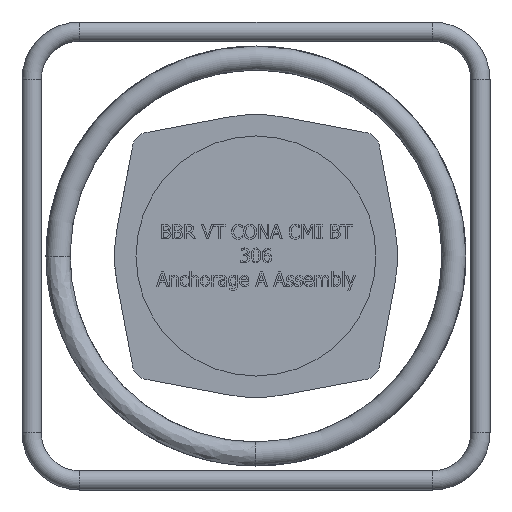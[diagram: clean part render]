
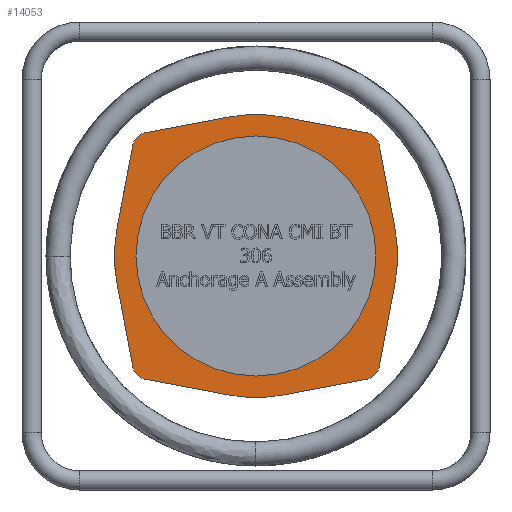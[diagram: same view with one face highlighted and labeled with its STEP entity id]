
A CAD part, left-side view. The second image highlights one B-rep face of the part: STEP entity #14053.
In plain terms, the highlighted planar face has unit normal (-1, 0, 0).
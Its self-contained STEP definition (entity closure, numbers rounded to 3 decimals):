
#83=FACE_BOUND('',#5054,.T.);
#1339=PLANE('',#14590);
#2422=LINE('',#27522,#3540);
#2423=LINE('',#27526,#3541);
#2424=LINE('',#27530,#3542);
#2425=LINE('',#27534,#3543);
#2426=LINE('',#27538,#3544);
#2427=LINE('',#27541,#3545);
#2428=LINE('',#27543,#3546);
#2429=LINE('',#27546,#3547);
#3540=VECTOR('',#16703,10.);
#3541=VECTOR('',#16706,10.);
#3542=VECTOR('',#16709,10.);
#3543=VECTOR('',#16712,10.);
#3544=VECTOR('',#16715,10.);
#3545=VECTOR('',#16718,10.);
#3546=VECTOR('',#16719,10.);
#3547=VECTOR('',#16722,10.);
#4264=FACE_OUTER_BOUND('',#5053,.T.);
#5053=EDGE_LOOP('',(#12075,#12076,#12077,#12078,#12079,#12080,#12081,#12082,
#12083,#12084,#12085,#12086,#12087,#12088,#12089,#12090));
#5054=EDGE_LOOP('',(#12091));
#5216=CIRCLE('',#14563,50.);
#5220=CIRCLE('',#14571,59.);
#5236=CIRCLE('',#14591,59.);
#5237=CIRCLE('',#14592,7.);
#5238=CIRCLE('',#14593,59.);
#5239=CIRCLE('',#14594,7.);
#5240=CIRCLE('',#14595,59.);
#5241=CIRCLE('',#14596,7.);
#5242=CIRCLE('',#14597,7.);
#6501=VERTEX_POINT('',#27222);
#6514=VERTEX_POINT('',#27288);
#6515=VERTEX_POINT('',#27290);
#6545=VERTEX_POINT('',#27518);
#6546=VERTEX_POINT('',#27519);
#6547=VERTEX_POINT('',#27521);
#6548=VERTEX_POINT('',#27523);
#6549=VERTEX_POINT('',#27525);
#6550=VERTEX_POINT('',#27527);
#6551=VERTEX_POINT('',#27529);
#6552=VERTEX_POINT('',#27531);
#6553=VERTEX_POINT('',#27533);
#6554=VERTEX_POINT('',#27535);
#6555=VERTEX_POINT('',#27537);
#6556=VERTEX_POINT('',#27539);
#6557=VERTEX_POINT('',#27542);
#6558=VERTEX_POINT('',#27544);
#8368=EDGE_CURVE('',#6501,#6501,#5216,.T.);
#8381=EDGE_CURVE('',#6515,#6514,#5220,.T.);
#8417=EDGE_CURVE('',#6545,#6546,#5236,.T.);
#8418=EDGE_CURVE('',#6547,#6546,#2422,.T.);
#8419=EDGE_CURVE('',#6547,#6548,#5237,.T.);
#8420=EDGE_CURVE('',#6548,#6549,#2423,.T.);
#8421=EDGE_CURVE('',#6549,#6550,#5238,.T.);
#8422=EDGE_CURVE('',#6551,#6550,#2424,.T.);
#8423=EDGE_CURVE('',#6551,#6552,#5239,.T.);
#8424=EDGE_CURVE('',#6552,#6553,#2425,.T.);
#8425=EDGE_CURVE('',#6553,#6554,#5240,.T.);
#8426=EDGE_CURVE('',#6555,#6554,#2426,.T.);
#8427=EDGE_CURVE('',#6555,#6556,#5241,.T.);
#8428=EDGE_CURVE('',#6556,#6515,#2427,.T.);
#8429=EDGE_CURVE('',#6557,#6514,#2428,.T.);
#8430=EDGE_CURVE('',#6557,#6558,#5242,.T.);
#8431=EDGE_CURVE('',#6558,#6545,#2429,.T.);
#12075=ORIENTED_EDGE('',*,*,#8417,.T.);
#12076=ORIENTED_EDGE('',*,*,#8418,.F.);
#12077=ORIENTED_EDGE('',*,*,#8419,.T.);
#12078=ORIENTED_EDGE('',*,*,#8420,.T.);
#12079=ORIENTED_EDGE('',*,*,#8421,.T.);
#12080=ORIENTED_EDGE('',*,*,#8422,.F.);
#12081=ORIENTED_EDGE('',*,*,#8423,.T.);
#12082=ORIENTED_EDGE('',*,*,#8424,.T.);
#12083=ORIENTED_EDGE('',*,*,#8425,.T.);
#12084=ORIENTED_EDGE('',*,*,#8426,.F.);
#12085=ORIENTED_EDGE('',*,*,#8427,.T.);
#12086=ORIENTED_EDGE('',*,*,#8428,.T.);
#12087=ORIENTED_EDGE('',*,*,#8381,.T.);
#12088=ORIENTED_EDGE('',*,*,#8429,.F.);
#12089=ORIENTED_EDGE('',*,*,#8430,.T.);
#12090=ORIENTED_EDGE('',*,*,#8431,.T.);
#12091=ORIENTED_EDGE('',*,*,#8368,.T.);
#14053=ADVANCED_FACE('',(#4264,#83),#1339,.T.);
#14563=AXIS2_PLACEMENT_3D('',#27224,#16628,#16629);
#14571=AXIS2_PLACEMENT_3D('',#27291,#16647,#16648);
#14590=AXIS2_PLACEMENT_3D('',#27517,#16699,#16700);
#14591=AXIS2_PLACEMENT_3D('',#27520,#16701,#16702);
#14592=AXIS2_PLACEMENT_3D('',#27524,#16704,#16705);
#14593=AXIS2_PLACEMENT_3D('',#27528,#16707,#16708);
#14594=AXIS2_PLACEMENT_3D('',#27532,#16710,#16711);
#14595=AXIS2_PLACEMENT_3D('',#27536,#16713,#16714);
#14596=AXIS2_PLACEMENT_3D('',#27540,#16716,#16717);
#14597=AXIS2_PLACEMENT_3D('',#27545,#16720,#16721);
#16628=DIRECTION('center_axis',(1.,0.,0.));
#16629=DIRECTION('ref_axis',(0.,-1.,0.));
#16647=DIRECTION('center_axis',(-1.,0.,0.));
#16648=DIRECTION('ref_axis',(0.,0.,
-1.));
#16699=DIRECTION('center_axis',(-1.,0.,0.));
#16700=DIRECTION('ref_axis',(0.,-1.,0.));
#16701=DIRECTION('center_axis',(-1.,0.,0.));
#16702=DIRECTION('ref_axis',(0.,0.,
-1.));
#16703=DIRECTION('',(0.,0.983,-0.184));
#16704=DIRECTION('center_axis',(-1.,0.,0.));
#16705=DIRECTION('ref_axis',(0.,0.588,-0.809));
#16706=DIRECTION('',(0.,-0.184,0.983));
#16707=DIRECTION('center_axis',(-1.,0.,0.));
#16708=DIRECTION('ref_axis',(0.,0.,
-1.));
#16709=DIRECTION('',(0.,-0.184,-0.983));
#16710=DIRECTION('center_axis',(-1.,0.,0.));
#16711=DIRECTION('ref_axis',(0.,-0.809,-0.588));
#16712=DIRECTION('',(0.,0.983,0.184));
#16713=DIRECTION('center_axis',(-1.,0.,0.));
#16714=DIRECTION('ref_axis',(0.,0.,
-1.));
#16715=DIRECTION('',(0.,-0.983,0.184));
#16716=DIRECTION('center_axis',(-1.,0.,0.));
#16717=DIRECTION('ref_axis',(0.,-0.588,0.809));
#16718=DIRECTION('',(0.,0.184,-0.983));
#16719=DIRECTION('',(0.,0.184,0.983));
#16720=DIRECTION('center_axis',(-1.,0.,0.));
#16721=DIRECTION('ref_axis',(0.,0.809,0.588));
#16722=DIRECTION('',(0.,-0.983,-0.184));
#27222=CARTESIAN_POINT('',(-70.115,50.,0.));
#27224=CARTESIAN_POINT('Origin',(-70.115,0.,
0.));
#27288=CARTESIAN_POINT('',(-70.115,57.988,-10.882));
#27290=CARTESIAN_POINT('',(-70.115,57.988,10.882));
#27291=CARTESIAN_POINT('Origin',(-70.115,0.,
0.));
#27517=CARTESIAN_POINT('Origin',(-70.115,0.,
-47.));
#27518=CARTESIAN_POINT('',(-70.115,10.882,-57.988));
#27519=CARTESIAN_POINT('',(-70.115,-10.882,-57.988));
#27520=CARTESIAN_POINT('Origin',(-70.115,0.,
0.));
#27521=CARTESIAN_POINT('',(-70.115,-45.839,-51.428));
#27522=CARTESIAN_POINT('',(-70.115,-45.839,-51.428));
#27523=CARTESIAN_POINT('',(-70.115,-51.428,-45.839));
#27524=CARTESIAN_POINT('Origin',(-70.115,-44.548,-44.548));
#27525=CARTESIAN_POINT('',(-70.115,-57.988,-10.882));
#27526=CARTESIAN_POINT('',(-70.115,-51.428,-45.839));
#27527=CARTESIAN_POINT('',(-70.115,-57.988,10.882));
#27528=CARTESIAN_POINT('Origin',(-70.115,0.,
0.));
#27529=CARTESIAN_POINT('',(-70.115,-51.428,45.839));
#27530=CARTESIAN_POINT('',(-70.115,-51.428,45.839));
#27531=CARTESIAN_POINT('',(-70.115,-45.839,51.428));
#27532=CARTESIAN_POINT('Origin',(-70.115,-44.548,44.548));
#27533=CARTESIAN_POINT('',(-70.115,-10.882,57.988));
#27534=CARTESIAN_POINT('',(-70.115,-45.839,51.428));
#27535=CARTESIAN_POINT('',(-70.115,10.882,57.988));
#27536=CARTESIAN_POINT('Origin',(-70.115,0.,
0.));
#27537=CARTESIAN_POINT('',(-70.115,45.839,51.428));
#27538=CARTESIAN_POINT('',(-70.115,45.839,51.428));
#27539=CARTESIAN_POINT('',(-70.115,51.428,45.839));
#27540=CARTESIAN_POINT('Origin',(-70.115,44.548,44.548));
#27541=CARTESIAN_POINT('',(-70.115,51.428,45.839));
#27542=CARTESIAN_POINT('',(-70.115,51.428,-45.839));
#27543=CARTESIAN_POINT('',(-70.115,51.428,-45.839));
#27544=CARTESIAN_POINT('',(-70.115,45.839,-51.428));
#27545=CARTESIAN_POINT('Origin',(-70.115,44.548,-44.548));
#27546=CARTESIAN_POINT('',(-70.115,45.839,-51.428));
